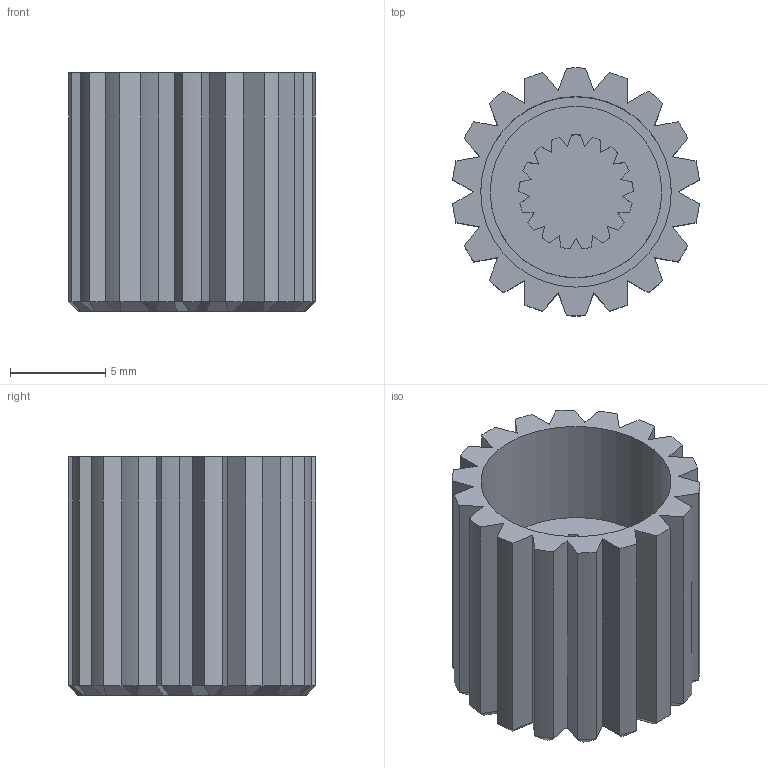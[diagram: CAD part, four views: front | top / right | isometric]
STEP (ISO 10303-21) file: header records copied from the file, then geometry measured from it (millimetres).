
FILE_DESCRIPTION(/* description */ ('STEP AP242 Edition 2','CAx-IF Rec.Pracs.---Representation and Presentation of Product Manufacturing Information (PMI)---4.0---2014-10-13','CAx-IF Rec.Pracs.---3D Tessellated Geometry---0.4---2014-09-14','2;1','CAx-IF Rec.Pracs.---User Defined Attributes---1.5---2016-08-15'),/* implementation_level */ '2;1');
FILE_NAME(/* name */ 'headcap - Part 1',/* time_stamp */ '2026-10-25T00:38:50Z',/* author */ (''),/* organization */ (''),/* preprocessor_version */ 'ST-DEVELOPER v20',/* originating_system */ 'ONSHAPE BY PTC INC, 1.222',/* authorisation */ ' ');
FILE_SCHEMA (('AP242_MANAGED_MODEL_BASED_3D_ENGINEERING_MIM_LF { 1 0 10303 442 3 1 4 }'));
Length unit declared in the file: metre
Products named in the file (1): Part 1
Bounding box: 12.94 x 13 x 12.5 mm (x, y, z)
Volume: 820.5 mm3; surface area: 1680.3 mm2
Topology: 1 solids, 1 shells, 183 faces, 448 edges, 269 vertices
Faces by surface type: plane 128, cylinder 37, cone 17, sphere 1
Full cylindrical faces by diameter (mm): 9 x1, 10 x1
Entity records: 5292 total; most frequent: CARTESIAN_POINT 998, ORIENTED_EDGE 888, DIRECTION 888, EDGE_CURVE 444, LINE 300, VECTOR 300, AXIS2_PLACEMENT_3D 294, VERTEX_POINT 268
